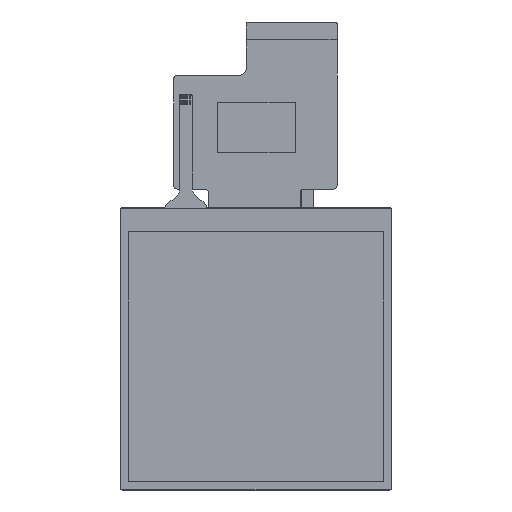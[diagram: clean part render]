
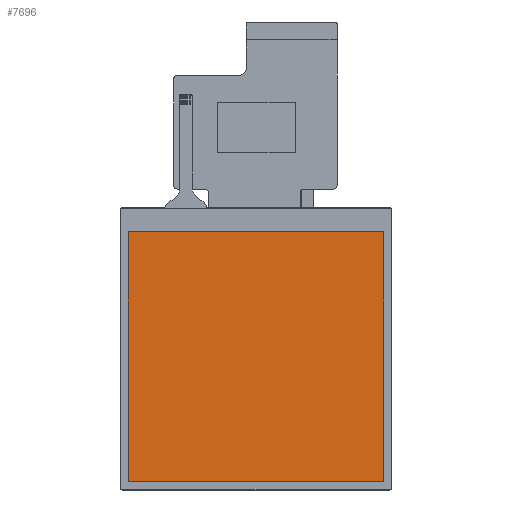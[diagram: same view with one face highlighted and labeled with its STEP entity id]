
A CAD part, front view. The second image highlights one B-rep face of the part: STEP entity #7696.
In plain terms, the highlighted planar face has unit normal (0, -1, 0).
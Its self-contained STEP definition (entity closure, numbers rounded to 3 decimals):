
#225 = DIRECTION ( 'NONE',  ( 0., 0., 1. ) ) ;
#593 = CARTESIAN_POINT ( 'NONE',  ( 2.072, 0.1, -76.75 ) ) ;
#689 = CARTESIAN_POINT ( 'NONE',  ( 73.928, 0.1, -76.75 ) ) ;
#846 = ORIENTED_EDGE ( 'NONE', *, *, #5834, .T. ) ;
#1345 = CARTESIAN_POINT ( 'NONE',  ( 0., 0.1, 0. ) ) ;
#2425 = AXIS2_PLACEMENT_3D ( 'NONE', #1345, #10480, #2653 ) ;
#2653 = DIRECTION ( 'NONE',  ( 0., 0., 1. ) ) ;
#3716 = VERTEX_POINT ( 'NONE', #593 ) ;
#3847 = LINE ( 'NONE', #10915, #10390 ) ;
#3881 = CARTESIAN_POINT ( 'NONE',  ( 2.072, 0.1, -6.574 ) ) ;
#3935 = VECTOR ( 'NONE', #7427, 1000. ) ;
#5206 = DIRECTION ( 'NONE',  ( -1., 0., 0. ) ) ;
#5834 = EDGE_CURVE ( 'NONE', #10183, #14230, #14798, .T. ) ;
#5902 = ORIENTED_EDGE ( 'NONE', *, *, #14875, .T. ) ;
#6087 = CARTESIAN_POINT ( 'NONE',  ( 2.072, 0.1, -76.75 ) ) ;
#6854 = CARTESIAN_POINT ( 'NONE',  ( 73.928, 0.1, -6.574 ) ) ;
#7427 = DIRECTION ( 'NONE',  ( 0., 0., -1. ) ) ;
#7696 = ADVANCED_FACE ( 'NONE', ( #13030 ), #13062, .F. ) ;
#7797 = ORIENTED_EDGE ( 'NONE', *, *, #11871, .T. ) ;
#9481 = ORIENTED_EDGE ( 'NONE', *, *, #10231, .T. ) ;
#10183 = VERTEX_POINT ( 'NONE', #6854 ) ;
#10231 = EDGE_CURVE ( 'NONE', #3716, #14582, #3847, .T. ) ;
#10390 = VECTOR ( 'NONE', #12240, 1000. ) ;
#10480 = DIRECTION ( 'NONE',  ( 0., 1., 0. ) ) ;
#10855 = VECTOR ( 'NONE', #5206, 1000. ) ;
#10915 = CARTESIAN_POINT ( 'NONE',  ( 73.928, 0.1, -76.75 ) ) ;
#11233 = VECTOR ( 'NONE', #225, 1000. ) ;
#11871 = EDGE_CURVE ( 'NONE', #14230, #3716, #14421, .T. ) ;
#12240 = DIRECTION ( 'NONE',  ( 1., 0., 0. ) ) ;
#13030 = FACE_OUTER_BOUND ( 'NONE', #15164, .T. ) ;
#13062 = PLANE ( 'NONE',  #2425 ) ;
#13260 = CARTESIAN_POINT ( 'NONE',  ( 73.928, 0.1, -6.574 ) ) ;
#14230 = VERTEX_POINT ( 'NONE', #16005 ) ;
#14421 = LINE ( 'NONE', #6087, #3935 ) ;
#14582 = VERTEX_POINT ( 'NONE', #689 ) ;
#14798 = LINE ( 'NONE', #3881, #10855 ) ;
#14875 = EDGE_CURVE ( 'NONE', #14582, #10183, #15174, .T. ) ;
#15164 = EDGE_LOOP ( 'NONE', ( #5902, #846, #7797, #9481 ) ) ;
#15174 = LINE ( 'NONE', #13260, #11233 ) ;
#16005 = CARTESIAN_POINT ( 'NONE',  ( 2.072, 0.1, -6.574 ) ) ;
